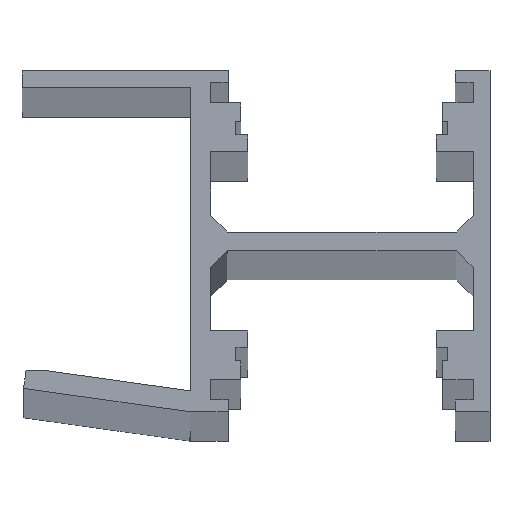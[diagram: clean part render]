
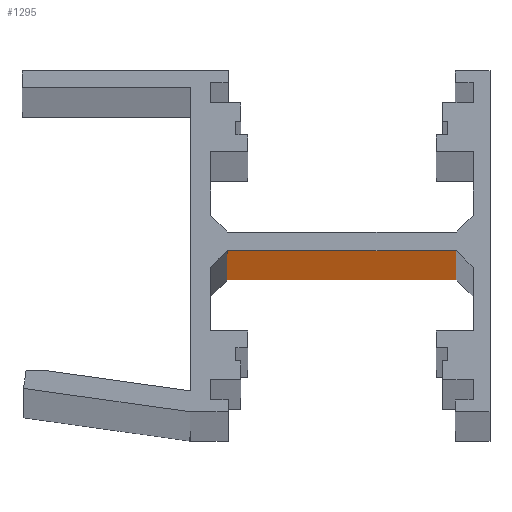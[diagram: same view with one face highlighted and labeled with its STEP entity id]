
A CAD part, top view. The second image highlights one B-rep face of the part: STEP entity #1295.
In plain terms, the highlighted planar face has unit normal (0, -1, 0).
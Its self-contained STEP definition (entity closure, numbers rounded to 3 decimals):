
#34=FACE_OUTER_BOUND('',#99,.T.);
#99=EDGE_LOOP('',(#901,#902,#903,#904));
#196=LINE('',#1853,#383);
#197=LINE('',#1856,#384);
#198=LINE('',#1858,#385);
#199=LINE('',#1859,#386);
#383=VECTOR('',#1513,10.);
#384=VECTOR('',#1516,10.);
#385=VECTOR('',#1517,10.);
#386=VECTOR('',#1518,10.);
#554=VERTEX_POINT('',#1849);
#555=VERTEX_POINT('',#1851);
#556=VERTEX_POINT('',#1855);
#557=VERTEX_POINT('',#1857);
#696=EDGE_CURVE('',#554,#555,#196,.T.);
#697=EDGE_CURVE('',#556,#554,#197,.T.);
#698=EDGE_CURVE('',#557,#555,#198,.T.);
#699=EDGE_CURVE('',#556,#557,#199,.T.);
#901=ORIENTED_EDGE('',*,*,#697,.T.);
#902=ORIENTED_EDGE('',*,*,#696,.T.);
#903=ORIENTED_EDGE('',*,*,#698,.F.);
#904=ORIENTED_EDGE('',*,*,#699,.F.);
#1231=PLANE('',#1380);
#1295=ADVANCED_FACE('',(#34),#1231,.T.);
#1380=AXIS2_PLACEMENT_3D('',#1854,#1514,#1515);
#1513=DIRECTION('',(0.,0.,1.));
#1514=DIRECTION('center_axis',(0.,-1.,0.));
#1515=DIRECTION('ref_axis',(1.,0.,0.));
#1516=DIRECTION('',(1.,0.,0.));
#1517=DIRECTION('',(1.,0.,0.));
#1518=DIRECTION('',(0.,0.,1.));
#1849=CARTESIAN_POINT('',(-2.,9.575,0.));
#1851=CARTESIAN_POINT('',(-2.,9.575,1000.));
#1853=CARTESIAN_POINT('',(-2.,9.575,0.));
#1854=CARTESIAN_POINT('Origin',(-15.6,9.575,0.));
#1855=CARTESIAN_POINT('',(-15.6,9.575,0.));
#1856=CARTESIAN_POINT('',(-15.6,9.575,0.));
#1857=CARTESIAN_POINT('',(-15.6,9.575,1000.));
#1858=CARTESIAN_POINT('',(-15.6,9.575,1000.));
#1859=CARTESIAN_POINT('',(-15.6,9.575,0.));
